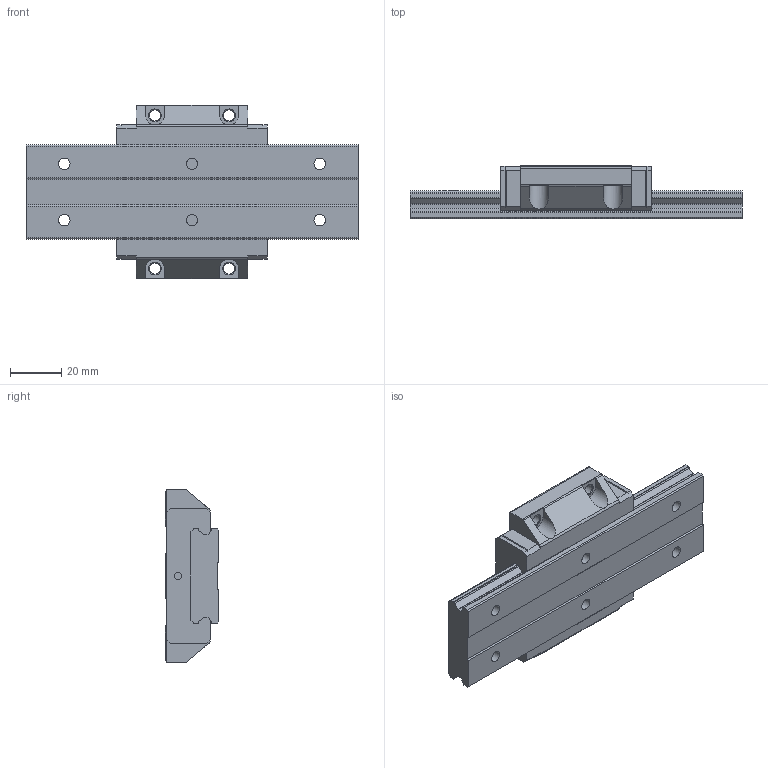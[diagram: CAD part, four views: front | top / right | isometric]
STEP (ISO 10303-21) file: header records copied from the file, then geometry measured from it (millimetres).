
FILE_DESCRIPTION(/* description */ ('STEP AP203'),/* implementation_level */ '2;1');
FILE_NAME(/* name */ 'SHW21CA1SS-130L_G15_0_Without_grease_nipple_35-5_0_0_01',/* time_stamp */ '2024-05-10T03:26:14+02:00',/* author */ ('License CC BY-ND 4.0'),/* organization */ ('CADENAS'),/* preprocessor_version */ 'ST-DEVELOPER v19.3',/* originating_system */ 'PARTsolutions',/* authorisation */ ' ');
FILE_SCHEMA (('CONFIG_CONTROL_DESIGN'));
Length unit declared in the file: millimetre
Products named in the file (4): SHW21CA1SS-130L_G15_0_Without_grease_nipple_35-5_0_0_01; SHW21CA13015 Track; SHW21CASS1 Slide12-50; -SHW_grease_nipple_joint
Assembly tree (3 placements, depth 2):
  SHW21CA1SS-130L_G15_0_Without_grease_nipple_35-5_0_0_01
    SHW21CA13015 Track
    SHW21CASS1 Slide12-50
    -SHW_grease_nipple_joint
Bounding box: 130 x 21 x 68 mm (x, y, z)
Volume: 89778.8 mm3; surface area: 27858.5 mm2
Topology: 2 solids, 2 shells, 195 faces, 538 edges, 357 vertices
Faces by surface type: plane 121, cylinder 62, cone 12
Full cylindrical faces by diameter (mm): 3 x2, 4.4 x6, 4.5 x6, 7.5 x6
Entity records: 6142 total; most frequent: CARTESIAN_POINT 1058, DIRECTION 1048, ORIENTED_EDGE 996, EDGE_CURVE 498, AXIS2_PLACEMENT_3D 355, VERTEX_POINT 348, LINE 338, VECTOR 338
